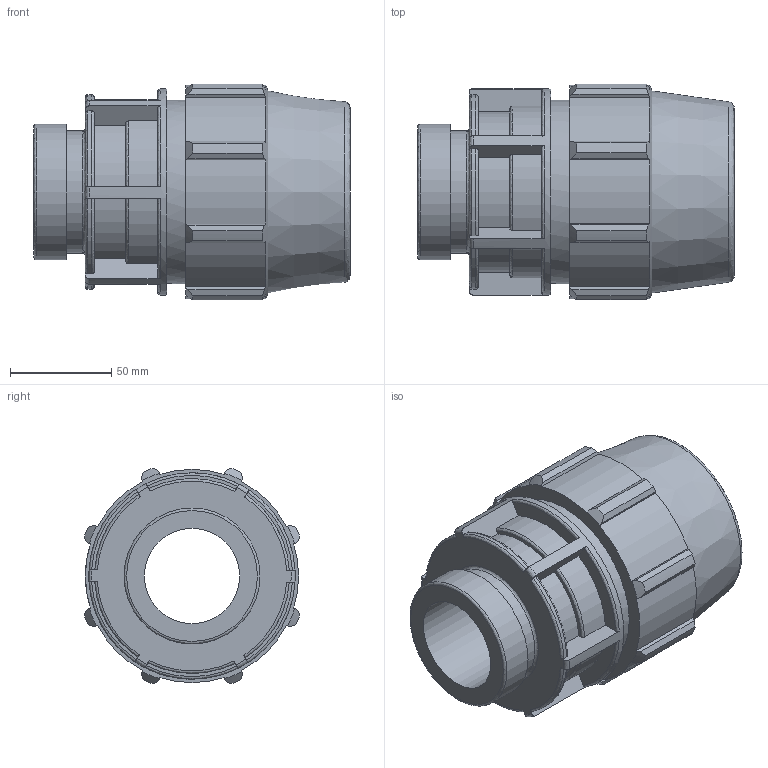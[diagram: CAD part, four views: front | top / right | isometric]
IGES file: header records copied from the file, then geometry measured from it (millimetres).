
Global section: file name: 073200063020_183200063020_0732060630200A.ipt; native system: Autodesk Inventor 2015; preprocessor: unknown; author: Кирилл,,11,0; organization: 20170224.180708; date: 20170606.110610; units: millimetre
Bounding box: 156 x 106.32 x 106.32 mm (x, y, z)
Volume: 581024.5 mm3; surface area: 99606.1 mm2
Topology: 1 solids, 1 shells, 155 faces, 448 edges, 301 vertices
Faces by surface type: plane 70, cylinder 38, revolution 37, cone 10
Full cylindrical faces by diameter (mm): 60.3 x1, 67 x1, 90.4 x1, 101.7 x1
